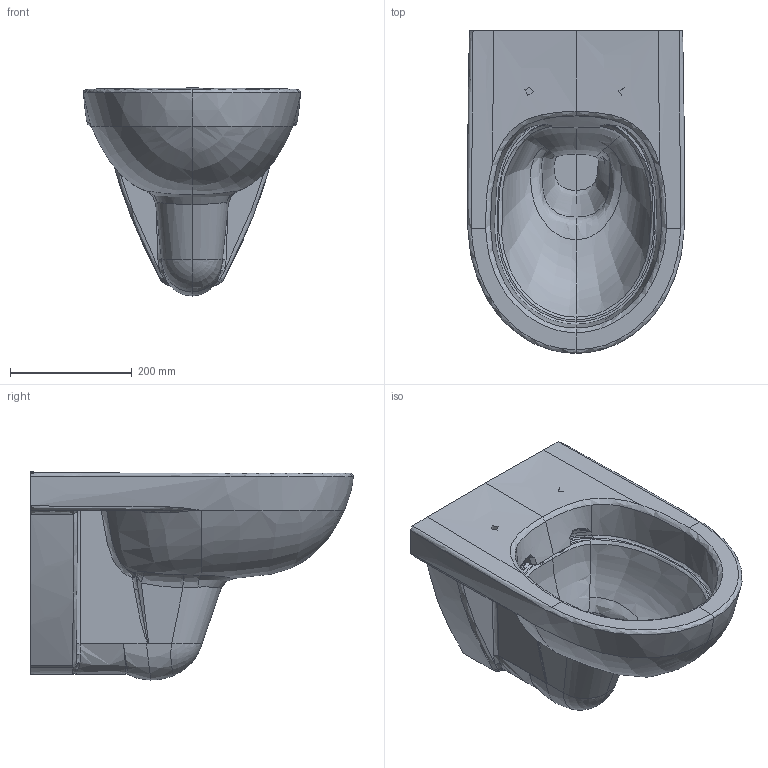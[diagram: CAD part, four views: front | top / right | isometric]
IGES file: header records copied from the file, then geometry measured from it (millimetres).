
Global section: file name: 500265; native system: Autodesk Inventor 2018; preprocessor: unknown; author: JANAN; date: 20200526.142043; units: millimetre
Bounding box: 356.7 x 530.04 x 341.8 mm (x, y, z)
Volume: 15662372.8 mm3; surface area: 807372.6 mm2
Topology: 1 solids, 1 shells, 263 faces, 783 edges, 519 vertices
Faces by surface type: bspline 263
